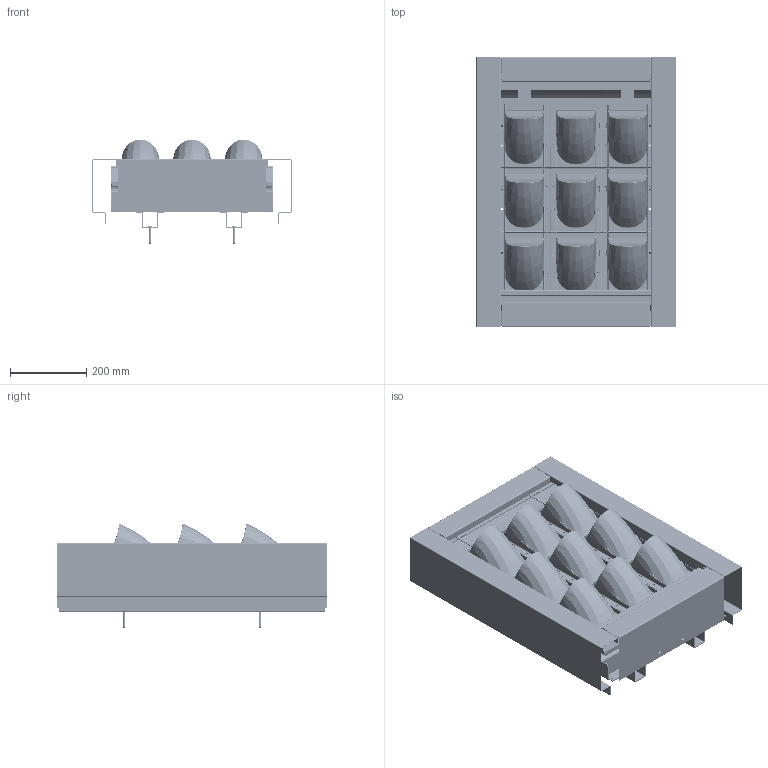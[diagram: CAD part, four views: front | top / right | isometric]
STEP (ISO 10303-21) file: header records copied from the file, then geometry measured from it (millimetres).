
FILE_DESCRIPTION (( 'STEP AP214' ), '1' );
FILE_NAME ('JG-GW-Greenwall Assembly 1x1.STEP', '2025-10-23T14:05:55', ( '' ), ( '' ), 'SwSTEP 2.0', 'SolidWorks 2024', '' );
FILE_SCHEMA (( 'AUTOMOTIVE_DESIGN' ));
Length unit declared in the file: millimetre
Products named in the file (1): JG-GW-Greenwall Assembly 1x1
Bounding box: 522 x 708 x 274.85 mm (x, y, z)
Volume: 28029166.4 mm3; surface area: 3366418.7 mm2
Topology: 15 solids, 64 shells, 9464 faces, 22623 edges, 13105 vertices
Faces by surface type: cylinder 3115, bspline 2845, plane 2260, torus 511, cone 421, sphere 312
Full cylindrical faces by diameter (mm): 4 x34, 4.7 x8, 5 x24, 5.6 x20, 6.2 x16, 6.3 x4, 6.5 x8, 9 x4, 11 x2, 12.5 x4
Entity records: 446370 total; most frequent: CARTESIAN_POINT 156892, ORIENTED_EDGE 44170, DIRECTION 34484, EDGE_CURVE 22085, AXIS2_PLACEMENT_3D 13122, VERTEX_POINT 13017, EDGE_LOOP 10000, FACE_OUTER_BOUND 9620
